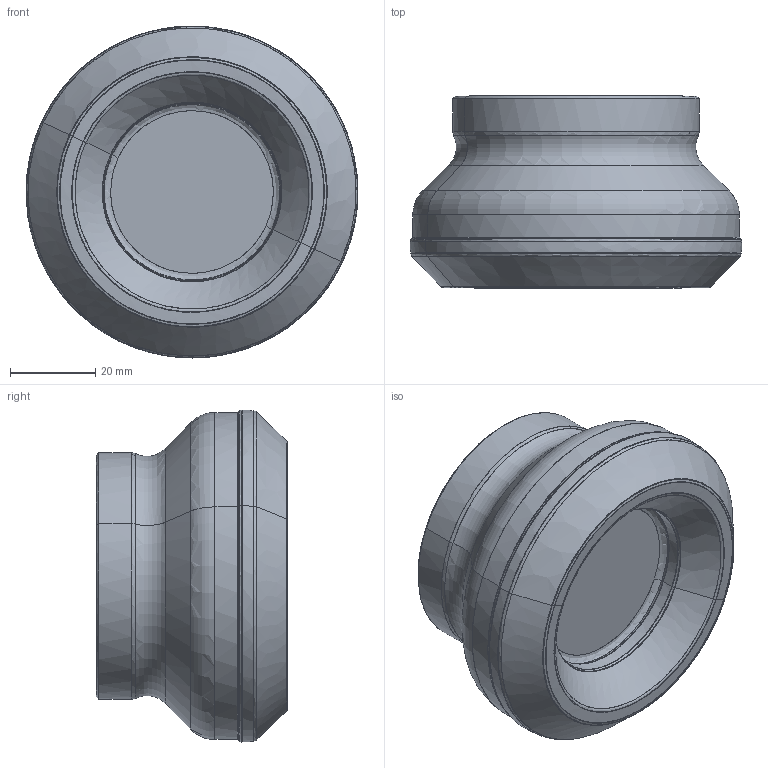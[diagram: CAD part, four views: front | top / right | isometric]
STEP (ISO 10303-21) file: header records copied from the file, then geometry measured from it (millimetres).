
FILE_DESCRIPTION(('OPEN MIND Model'),'2;1');
FILE_NAME('OPEN MIND Shape Model','2018-12-13T09:27:23',('Author'),( 'hyperCAD-S '),'hyperCAD-S STEP processor 6.6','hyperCAD-S 1.0' ,'Unknown');
FILE_SCHEMA(('AUTOMOTIVE_DESIGN { 1 2 10303 214 -1 1 5 4 }'));
Length unit declared in the file: millimetre
Products named in the file (61): Product 1; Product 1.1; Product 1.2; Product 1.3; Product 1.4; Product 1.5; Product 1.6; Product 1.7; Product 1.8; Product 1.9; Product 1.10; Product 1.11; Product 1.12; Product 1.13; Product 1.14; Product 1.15; Product 1.16; Product 1.17; Product 1.18; Product 1.19; Product 1.20; Product 1.21; Product 1.22; Product 1.23; Product 1.24; Product 1.25; Product 1.26; Product 1.27; Product 1.28; Product 1.29; Product 1.30; Product 1.31; Product 1.32; Product 1.33; Product 1.34; Product 1.35; Product 1.36; Product 1.37; Product 1.38; Product 1.39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
Assembly tree (60 placements, depth 2):
  Product 1
    Product 1.1
    Product 1.2
    Product 1.3
    Product 1.4
    Product 1.5
    Product 1.6
    Product 1.7
    Product 1.8
    Product 1.9
    Product 1.10
    Product 1.11
    Product 1.12
    Product 1.13
    Product 1.14
    Product 1.15
    Product 1.16
    Product 1.17
    Product 1.18
    Product 1.19
    Product 1.20
    Product 1.21
    Product 1.22
    Product 1.23
    Product 1.24
    Product 1.25
    Product 1.26
    Product 1.27
    Product 1.28
    Product 1.29
    Product 1.30
    Product 1.31
    Product 1.32
    Product 1.33
    Product 1.34
    Product 1.35
    Product 1.36
    Product 1.37
    Product 1.38
    Product 1.39
    Product 1.40
    Product 1.41
    Product 1.42
    Product 1.43
    Product 1.44
    Product 1.45
    Product 1.46
    Product 1.47
    Product 1.48
    Product 1.49
    Product 1.50
    Product 1.51
    Product 1.52
    Product 1.53
    Product 1.54
    Product 1.55
    Product 1.56
    Product 1.57
    Product 1.58
    Product 1.59
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Bounding box: 77.91 x 45.03 x 77.95 mm (x, y, z)
Surface area: 17709 mm2 (no closed solid volume)
Topology: 0 solids, 60 shells, 60 faces, 236 edges, 236 vertices
Faces by surface type: bspline 36, revolution 18, cylinder 4, plane 2
Entity records: 27912 total; most frequent: CARTESIAN_POINT 24445, B_SPLINE_CURVE_WITH_KNOTS 476, ORIENTED_EDGE 236, EDGE_CURVE 236, VERTEX_POINT 236, SURFACE_CURVE 236, PCURVE 236, DEFINITIONAL_REPRESENTATION 236
